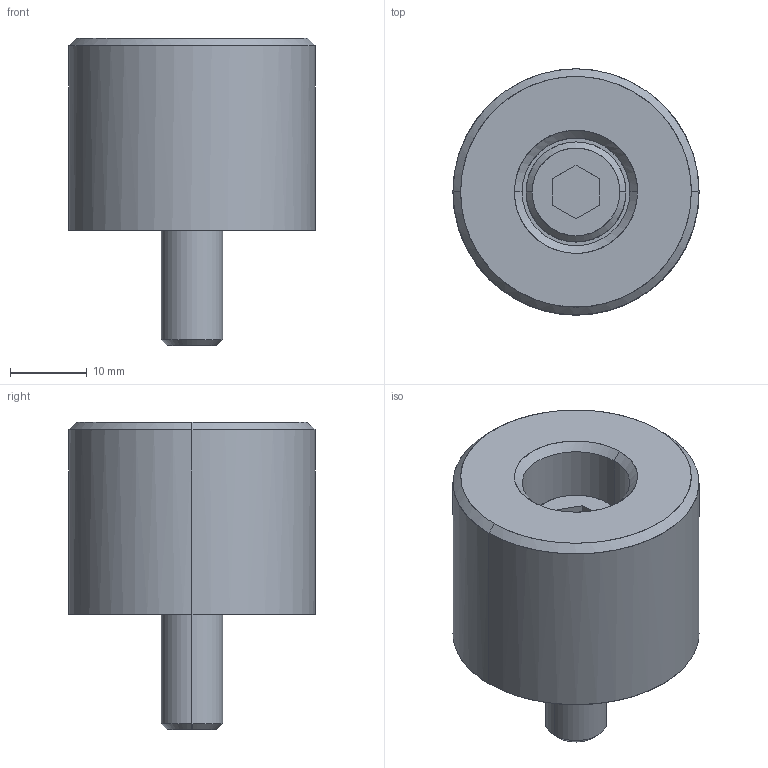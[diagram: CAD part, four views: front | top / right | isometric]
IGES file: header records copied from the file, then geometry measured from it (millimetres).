
Global section: file name: E:\UnigraphicsGraphicData\MISUMI_PRESS-PARTS\IGES\3d_sbv32-25-r-25_00592_r00.igs; native system: NX V5.0; preprocessor: UGS NX IGES V5.0; author: MISUMI; date: 20110105.162508; units: millimetre
Bounding box: 32 x 32 x 40 mm (x, y, z)
Surface area: 6123.9 mm2 (no closed solid volume)
Topology: 0 solids, 0 shells, 31 faces, 204 edges, 204 vertices
Faces by surface type: bspline 31
